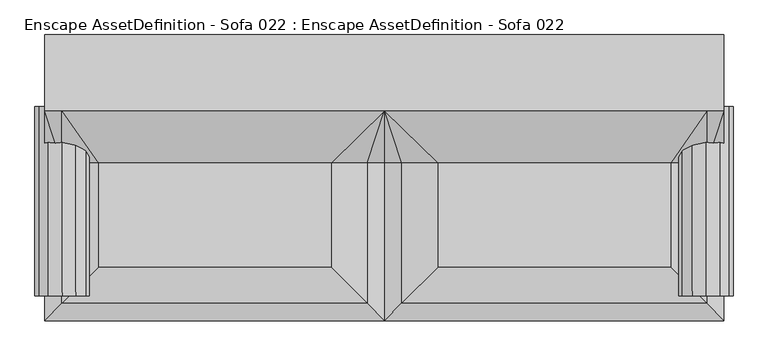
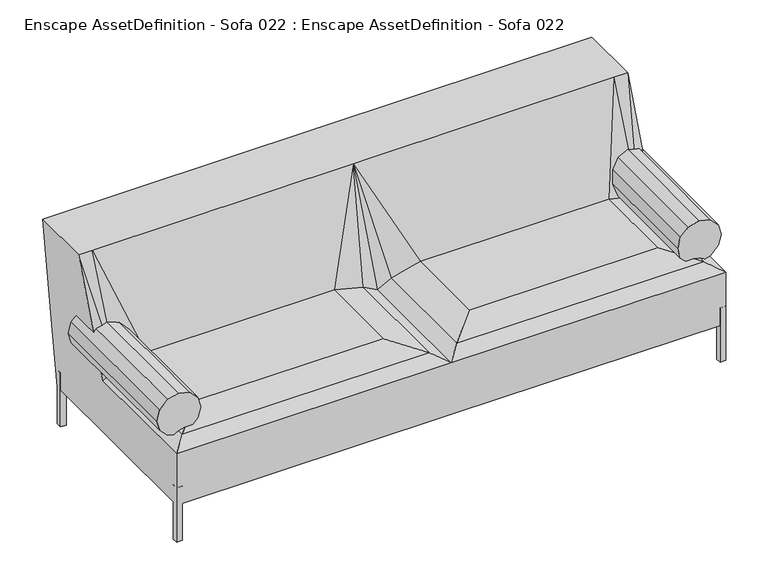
"""IFC4 building model written with IfcOpenShell, lengths in millimetres: geographic element geometry, Enscape AssetDefinition - Sofa 022 : Enscape AssetDefinition - Sofa 022."""

from ifc_helpers import new_model, si_unit, origin, place, context, project, spatial, triangles, source, transform, mapped, element, save


def enscape_assetdefinition_sofa_022_enscape_assetdefinition_23783522(model_context):
    return source(origin(), model_context, "Body", "Tessellation", [
        triangles([(-1192.3839769, -369.7550105, 437.6079909), (-1227.6580593, 302.2220142, 569.2520267), (-1144.198982, -369.7550105, 424.6959884), (-1096.0139872, 302.2220142, 437.6079909), (-1144.198982, 302.2220142, 424.6959884), (-1192.3839769, 302.2220142, 437.6079909), (-1227.6580593, 302.2220142, 472.8820006), (-1240.5690445, 302.2220142, 521.0670319), (-1227.6580593, -369.7550105, 569.2520267), (-1240.5690445, -369.7550105, 521.0670319), (-1144.198982, -369.7550105, 617.438039), (-1227.6580593, -369.7550105, 472.8820006), (-1096.0139872, -369.7550105, 437.6079909), (-1060.7390327, -369.7550105, 472.8820006), (-1060.7390327, -369.7550105, 569.2520267), (-1047.8279749, 302.2220142, 521.0670319), (-1060.7390327, 302.2220142, 472.8820006), (-1047.8279749, -369.7550105, 521.0670319), (-1060.7390327, 302.2220142, 569.2520267), (-1144.198982, 302.2220142, 617.438039), (-1096.0129698, 302.2220142, 604.5260001), (-1192.3839769, 302.2220142, 604.5260001), (-1096.0129698, -369.7550105, 604.5260001), (-1192.3839769, -369.7550105, 604.5260001), (-1205.431945, 102.6109969, 410.2100266), (-1205.431945, 448.7389976, 171.1759978), (-1205.431945, -458.6109967, 410.2100266), (-1205.431945, 487.155003, 410.2100266), (-1205.431945, 557.5169872, 883.4159901), (0.0, 487.155003, 410.2100266), (0.0, 448.7389976, 171.1759978), (-1144.5799908, 102.6109969, 442.7889974), (-1205.431945, 286.5419938, 883.4159901), (-1144.5799908, 286.5419938, 883.4159901), (0.0, 557.5169872, 883.4159901), (1205.431945, 487.155003, 410.2100266), (1205.431945, 557.5169872, 883.4159901), (1205.431945, 448.7389976, 171.1759978), (1205.431945, 0.167, 171.1759978), (1205.431945, 102.6109969, 410.2100266), (1205.431945, 286.5419938, 883.4159901), (1144.5799908, 286.5419938, 883.4159901), (1144.5799908, 102.6109969, 442.7889974), (1016.2679827, 102.6109969, 474.9750051), (1016.2679827, -269.446998, 474.9750051), (60.8519997, -397.7590061, 442.7889974), (1144.5799908, -397.7590061, 442.7889974), (189.1639987, -269.446998, 474.9750051), (189.1639987, 102.6109969, 474.9750051), (60.8519997, 102.6109969, 442.7889974), (1205.431945, -458.6109967, 410.2100266), (0.0, -458.6109967, 410.2100266), (-60.8519997, 102.6109969, 442.7889974), (0.0, 102.6109969, 410.2100266), (0.0, 286.5419938, 883.4159901), (-60.8519997, -397.7590061, 442.7889974), (-189.1639987, 102.6109969, 474.9750051), (-1016.2679827, 102.6109969, 474.9750051), (-189.1639987, -269.446998, 474.9750051), (-1016.2679827, -269.446998, 474.9750051), (-1144.5799908, -397.7590061, 442.7889974), (-1205.431945, 0.167, 171.1759978), (0.0, 0.167, 171.1759978), (-1205.4310003, -458.6109967, 171.1759978), (0.0, -458.6109967, 171.1759978), (1205.431945, -458.6109967, 171.1759978), (1190.1700859, 302.2220142, 437.6079909), (1225.4449677, 302.2220142, 569.2520267), (1141.9849457, 302.2220142, 424.6959884), (1238.3559528, 302.2220142, 521.0670319), (1225.4449677, 302.2220142, 472.8820006), (1058.5260138, 302.2220142, 472.8820006), (1238.3559528, -369.7550105, 521.0670319), (1190.1700859, -369.7550105, 604.5260001), (1141.9849457, -369.7550105, 617.438039), (1225.4449677, -369.7550105, 472.8820006), (1225.4449677, -369.7550105, 569.2520267), (1190.1700859, 302.2220142, 604.5260001), (1141.9849457, 302.2220142, 617.438039), (1093.7999508, 302.2220142, 604.5260001), (1058.5260138, 302.2220142, 569.2520267), (1058.5260138, -369.7550105, 569.2520267), (1093.7999508, -369.7550105, 604.5260001), (1045.6149559, 302.2220142, 521.0670319), (1058.5260138, -369.7550105, 472.8820006), (1045.6149559, -369.7550105, 521.0670319), (1093.7999508, 302.2220142, 437.6079909), (1093.7999508, -369.7550105, 437.6079909), (1141.9849457, -369.7550105, 424.6959884), (1190.1700859, -369.7550105, 437.6079909), (-1205.4310003, -434.2499837, 0.0), (-1205.4310003, -458.6109967, 252.3309824), (-1205.4310003, -434.2499837, 252.3309824), (-1181.0699873, -458.6109967, 252.3309824), (-1205.4310003, -458.6109967, 0.0), (-1181.0699873, -434.2499837, 0.0), (-1181.0699873, -434.2499837, 252.3309824), (-1181.0699873, -458.6109967, 0.0), (-1205.4310003, 448.4820002, 252.3309824), (-1181.0699873, 424.1209871, 252.3309824), (-1181.0699873, 424.1209871, 0.0), (-1205.4310003, 424.1209871, 252.3309824), (-1205.4310003, 448.4820002, 0.0), (-1181.0699873, 448.4820002, 252.3309824), (-1181.0699873, 448.4820002, 0.0), (-1205.4310003, 424.1209871, 0.0), (1181.0699873, -434.2499837, 252.3309824), (1205.431945, -434.2499837, 252.3309824), (1205.431945, -458.6109967, 0.0), (1205.431945, -458.6109967, 252.3309824), (1181.0699873, -458.6109967, 252.3309824), (1181.0699873, -434.2499837, 0.0), (1205.431945, -434.2499837, 0.0), (1181.0699873, -458.6109967, 0.0), (1181.0699873, 424.1789778, 252.3309824), (1181.0699873, 448.5399908, 252.3309824), (1205.431945, 448.5399908, 252.3309824), (1205.431945, 424.1789778, 252.3309824), (1205.431945, 424.1789778, 0.0), (1205.431945, 448.5399908, 0.0), (1181.0699873, 448.5399908, 0.0), (1181.0699873, 424.1789778, 0.0)], [[121, 122, 115], [122, 121, 120], [122, 120, 119], [119, 120, 117], [122, 119, 118], [122, 118, 115], [119, 117, 118], [120, 121, 116], [116, 115, 118], [121, 115, 116], [120, 116, 117], [116, 118, 117], [109, 111, 114], [114, 113, 109], [114, 112, 113], [112, 108, 113], [109, 110, 111], [113, 108, 110], [113, 110, 109], [112, 107, 108], [114, 111, 107], [107, 111, 110], [114, 107, 112], [107, 110, 108], [101, 102, 106], [106, 105, 101], [106, 103, 105], [103, 104, 105], [101, 100, 102], [100, 101, 105], [100, 105, 104], [103, 99, 104], [106, 102, 99], [99, 102, 100], [106, 99, 103], [99, 100, 104], [91, 95, 92], [95, 91, 96], [95, 96, 98], [98, 96, 97], [95, 98, 94], [98, 97, 94], [95, 94, 92], [96, 91, 93], [93, 92, 94], [96, 93, 97], [91, 92, 93], [93, 94, 97], [67, 90, 89], [85, 89, 75], [85, 88, 89], [87, 88, 85], [87, 85, 72], [86, 85, 75], [72, 85, 86], [72, 86, 84], [82, 86, 75], [84, 86, 82], [84, 82, 81], [75, 83, 82], [81, 82, 83], [80, 83, 75], [81, 83, 80], [81, 80, 79], [80, 75, 79], [79, 78, 68], [79, 75, 74], [79, 74, 78], [78, 74, 77], [78, 77, 68], [68, 77, 73], [74, 75, 76], [77, 74, 76], [76, 73, 77], [89, 90, 76], [89, 76, 75], [71, 76, 90], [71, 90, 67], [70, 73, 76], [70, 76, 71], [68, 73, 70], [81, 79, 69], [84, 81, 69], [72, 84, 69], [69, 87, 72], [71, 67, 69], [70, 71, 69], [68, 70, 69], [69, 89, 88], [79, 68, 69], [67, 89, 69], [69, 88, 87], [39, 51, 66], [39, 66, 65], [51, 65, 66], [39, 65, 63], [51, 52, 65], [63, 65, 64], [52, 64, 65], [31, 63, 62], [63, 64, 62], [52, 27, 64], [27, 62, 64], [60, 32, 61], [52, 61, 27], [52, 56, 61], [59, 60, 61], [59, 61, 56], [60, 58, 32], [58, 60, 59], [32, 58, 34], [57, 34, 58], [58, 59, 57], [59, 56, 53], [59, 53, 57], [54, 53, 56], [54, 56, 52], [57, 55, 34], [53, 54, 55], [57, 53, 55], [54, 50, 55], [54, 52, 46], [54, 46, 50], [51, 46, 52], [50, 46, 48], [50, 48, 49], [50, 49, 55], [49, 42, 55], [49, 44, 42], [45, 48, 46], [49, 48, 45], [49, 45, 44], [51, 47, 46], [45, 46, 47], [45, 47, 43], [45, 43, 44], [44, 43, 42], [43, 41, 42], [40, 43, 47], [43, 40, 41], [39, 40, 51], [40, 47, 51], [38, 39, 63], [38, 40, 39], [38, 63, 31], [38, 36, 40], [36, 41, 40], [36, 37, 41], [41, 37, 42], [30, 36, 38], [30, 37, 36], [30, 38, 31], [35, 55, 42], [34, 55, 35], [30, 35, 37], [35, 42, 37], [34, 35, 29], [32, 34, 33], [29, 33, 34], [28, 29, 35], [28, 30, 31], [28, 33, 29], [28, 35, 30], [31, 62, 26], [28, 31, 26], [27, 25, 62], [28, 25, 33], [25, 27, 61], [25, 28, 26], [32, 33, 25], [25, 61, 32], [25, 26, 62], [15, 23, 11], [11, 24, 9], [22, 24, 11], [2, 9, 24], [2, 24, 22], [2, 22, 20], [20, 11, 23], [22, 11, 20], [21, 23, 15], [20, 23, 21], [2, 20, 19], [20, 21, 19], [21, 15, 19], [19, 15, 18], [19, 18, 16], [17, 4, 19], [19, 16, 17], [14, 18, 15], [16, 18, 14], [16, 14, 17], [17, 14, 13], [4, 13, 3], [17, 13, 4], [14, 15, 12], [13, 14, 12], [3, 13, 12], [15, 11, 12], [10, 12, 11], [9, 10, 11], [8, 10, 9], [8, 9, 2], [7, 12, 10], [7, 10, 8], [6, 12, 7], [12, 1, 3], [6, 1, 12], [8, 2, 5], [7, 8, 5], [5, 6, 7], [4, 5, 19], [5, 3, 1], [19, 5, 2], [4, 3, 5], [5, 1, 6]]),
    ])


if __name__ == "__main__":
    model = new_model("IFC4")
    model_context = context("Model", 3, world=origin())
    ifc_project = project(units=[si_unit("LENGTHUNIT", "METRE", prefix="MILLI")], contexts=[model_context])
    site = spatial("IfcSite", under=ifc_project)
    building = spatial("IfcBuilding", under=site)
    placement = place(None, origin())
    enscape_assetdefinition_sofa_022_enscape_assetdefinition_shape = enscape_assetdefinition_sofa_022_enscape_assetdefinition_23783522(model_context)
    element("IfcGeographicElement", 1, ObjectType="Enscape AssetDefinition - Sofa 022 : Enscape AssetDefinition - Sofa 022", at=placement, inside=building, context=model_context, shape_type="MappedRepresentation", body=[
        mapped(enscape_assetdefinition_sofa_022_enscape_assetdefinition_shape, transform((0.0, 0.0, 0.0), x_axis=(1.0, 0.0, 0.0), y_axis=(0.0, 1.0, 0.0), z_axis=(0.0, 0.0, 1.0))),
    ])
    save(model, "model.ifc")
